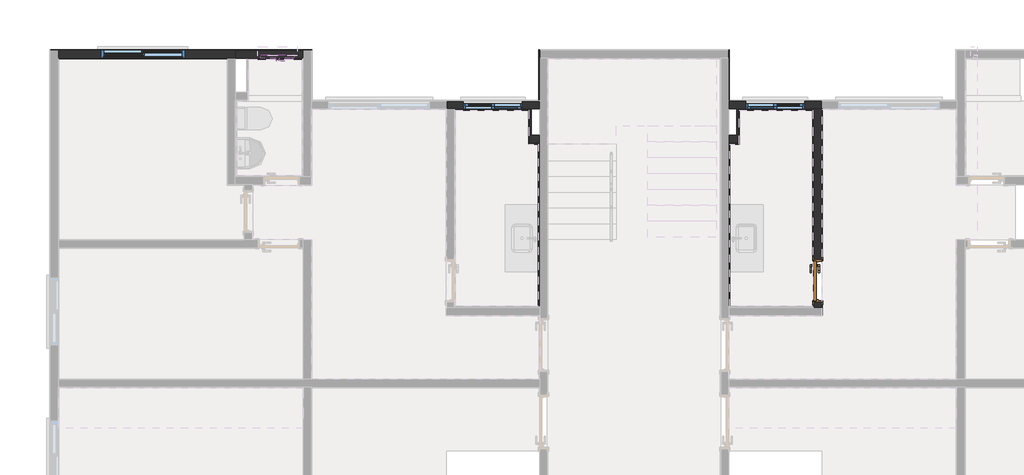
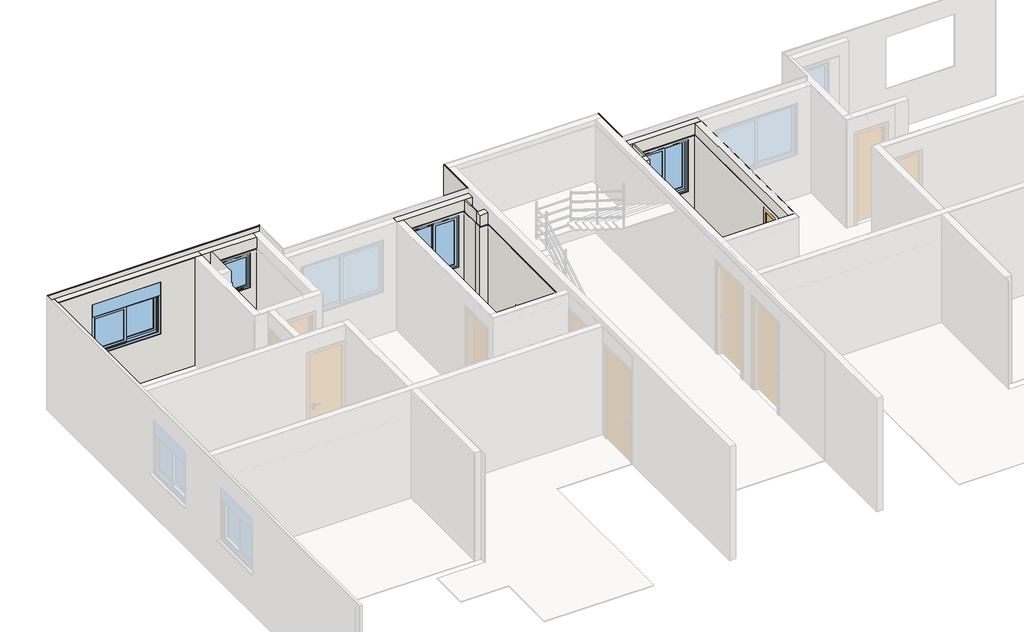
# One storey, part 6 of 11: 26 walls, 4 windows, 1 door.
"""IFC4 building model written with IfcOpenShell, lengths in millimetres."""

from ifc_helpers import new_model, si_unit, frame, origin, origin_with_axes, place, context, project, spatial, polyline, outline, extrude, faceted_brep, transform, mapped, element, save
from components import porta_de_madeira_interna_70_x_210_porta_de_madeira_interna_f307109d, window_105x120_428ac20c, window_105x120_f2d7c1f1, window_150x120_d34a449e, window_60x80_6d4336cf

model = new_model("IFC4")

# Units and contexts
model_context = context("Model", 3, world=origin())
ifc_project = project(units=[si_unit("LENGTHUNIT", "METRE", prefix="MILLI")], contexts=[model_context])

# Site, building, storey
site = spatial("IfcSite", under=ifc_project)
building = spatial("IfcBuilding", under=site)
storey = spatial("IfcBuildingStorey", under=building, Name="Térreo", Elevation=0.0)

# Door
placement = place(None, origin())
porta_de_madeira_interna_70_x_210_porta_de_madeira_interna_shape = porta_de_madeira_interna_70_x_210_porta_de_madeira_interna_f307109d(model_context)
element("IfcDoor", 1, ObjectType="Porta de Madeira Interna 70 x 210 : Porta de Madeira Interna 70 x 210", at=placement, inside=storey, context=model_context, shape_type="MappedRepresentation", body=[
    mapped(porta_de_madeira_interna_70_x_210_porta_de_madeira_interna_shape, transform((13673.8210213, 8221.3603139, 0.0), x_axis=(0.0, -1.0, 0.0), y_axis=(1.0, 0.0, 0.0), z_axis=(0.0, 0.0, 1.0))),
])

# Walls
element("IfcWall", 2, ObjectType="Alvenaria Estrutural", at=placement, inside=storey, context=model_context, shape_type="Brep", body=[
    faceted_brep([(175.9991825, 12180.0252435, 0.0), (169.9991825, 12180.0252435, 0.0), (169.9991825, 12320.0252435, 0.0), (3319.9977061, 12320.0252435, 0.0), (3319.9977061, 12180.0252435, 0.0), (3179.9977061, 12180.0252435, 0.0), (3179.9977061, 12180.0252435, 2510.0), (3319.9977061, 12180.0252435, 2510.0), (3319.9977061, 12320.0252435, 2510.0), (169.9991825, 12320.0252435, 2510.0), (169.9991825, 12180.0252435, 2510.0), (175.9991825, 12180.0252435, 2510.0), (2424.9984443, 12180.0252435, 1000.0), (2424.9984443, 12180.0252435, 2200.0), (2424.9984443, 12320.0252435, 2200.0), (2424.9984443, 12320.0252435, 1000.0), (2424.9984443, 12222.5252435, 1000.0), (924.9984443, 12180.0252435, 2200.0), (924.9984443, 12320.0252435, 2200.0), (924.9984443, 12180.0252435, 1000.0), (924.9984443, 12222.5252435, 1000.0), (924.9984443, 12320.0252435, 1000.0), (874.9984443, 12320.0252435, 951.3083694), (874.9984443, 12320.0252435, 1000.0), (874.9984443, 12222.5252435, 1000.0), (874.9984443, 12222.5252435, 972.0326341), (2474.9984443, 12320.0252435, 1000.0), (2474.9984443, 12320.0252435, 951.3083694), (2474.9984443, 12222.5252435, 972.0326341), (2474.9984443, 12222.5252435, 1000.0)], [[[0, 1, 2, 3, 4, 5]], [[6, 7, 8, 9, 10, 11]], [[12, 13, 14, 15, 16]], [[13, 17, 18, 14]], [[17, 19, 20, 21, 18]], [[19, 12, 16, 20]], [[22, 23, 24, 25]], [[26, 27, 28, 29]], [[20, 16, 29, 28, 25, 24]], [[23, 21, 20, 24]], [[27, 22, 25, 28]], [[15, 26, 29, 16]], [[3, 2, 9, 8], [15, 14, 18, 21, 23, 22, 27, 26]], [[1, 0, 5, 4, 7, 6, 11, 10], [13, 12, 19, 17]], [[7, 4, 3, 8]], [[1, 10, 9, 2]]]),
    faceted_brep([(169.9991825, 12180.0252435, 0.0), (175.9991825, 12180.0252435, 0.0), (3179.9977061, 12180.0252435, 0.0), (3319.9977061, 12180.0252435, 0.0), (3319.9977061, 12180.0252435, 2510.0), (3179.9977061, 12180.0252435, 2510.0), (175.9991825, 12180.0252435, 2510.0), (169.9991825, 12180.0252435, 2510.0), (2424.9984443, 12180.0252435, 2200.0), (2424.9984443, 12180.0252435, 1000.0), (924.9984443, 12180.0252435, 1000.0), (924.9984443, 12180.0252435, 2200.0), (3319.9977061, 12320.0252435, 0.0), (169.9991825, 12320.0252435, 0.0), (169.9991825, 12320.0252435, 2510.0), (3319.9977061, 12320.0252435, 2510.0), (2424.9984443, 12320.0252435, 1000.0), (2424.9984443, 12320.0252435, 2200.0), (924.9984443, 12320.0252435, 2200.0), (924.9984443, 12320.0252435, 1000.0), (874.9984443, 12320.0252435, 1000.0), (874.9984443, 12320.0252435, 951.3083694), (2474.9984443, 12320.0252435, 951.3083694), (2474.9984443, 12320.0252435, 1000.0), (2424.9984443, 12222.5252435, 1000.0), (924.9984443, 12222.5252435, 1000.0), (874.9984443, 12222.5252435, 1000.0), (874.9984443, 12222.5252435, 972.0326341), (2474.9984443, 12222.5252435, 972.0326341), (2474.9984443, 12222.5252435, 1000.0)], [[[0, 1, 2, 3, 4, 5, 6, 7], [8, 9, 10, 11]], [[12, 13, 14, 15], [16, 17, 18, 19, 20, 21, 22, 23]], [[1, 0, 13, 12, 3, 2]], [[5, 4, 15, 14, 7, 6]], [[9, 8, 17, 16, 24]], [[8, 11, 18, 17]], [[11, 10, 25, 19, 18]], [[10, 9, 24, 25]], [[21, 20, 26, 27]], [[23, 22, 28, 29]], [[25, 24, 29, 28, 27, 26]], [[20, 19, 25, 26]], [[22, 21, 27, 28]], [[4, 3, 12, 15]], [[0, 7, 14, 13]], [[16, 23, 29, 24]]]),
])
element("IfcWall", 3, ObjectType="Alvenaria Estrutural", at=placement, inside=storey, context=model_context, shape_type="Brep", body=[
    faceted_brep([(3516.99398, 12180.025593, 0.0), (3319.9977061, 12180.025593, 0.0), (3319.9977061, 12320.025593, 0.0), (4529.9986472, 12320.025593, 0.0), (4529.9986472, 12180.025593, 0.0), (4509.9990083, 12180.025593, 0.0), (3539.99398, 12180.025593, 0.0), (3539.99398, 12180.025593, 2510.0), (4529.9986472, 12180.025593, 2510.0), (4529.9986472, 12320.025593, 2510.0), (3319.9977061, 12320.025593, 2510.0), (3319.9977061, 12180.025593, 2510.0), (3516.99398, 12180.025593, 2510.0), (3719.9986472, 12320.025593, 1351.3083694), (3719.9986472, 12320.025593, 1400.0), (3719.9986472, 12222.525593, 1400.0), (3719.9986472, 12222.525593, 1372.0326341), (4419.9986472, 12320.025593, 1400.0), (4419.9986472, 12320.025593, 1351.3083694), (4419.9986472, 12222.525593, 1372.0326341), (4419.9986472, 12222.525593, 1400.0), (3769.9986472, 12222.525593, 1400.0), (4369.9986472, 12222.525593, 1400.0), (3769.9986472, 12320.025593, 1400.0), (4369.9986472, 12180.025593, 1400.0), (4369.9986472, 12180.025593, 2200.0), (4369.9986472, 12320.025593, 2200.0), (4369.9986472, 12320.025593, 1400.0), (3769.9986472, 12180.025593, 2200.0), (3769.9986472, 12320.025593, 2200.0), (3769.9986472, 12180.025593, 1400.0), (4529.9986472, 12180.025593, 2250.0)], [[[0, 1, 2, 3, 4, 5, 6]], [[7, 8, 9, 10, 11, 12]], [[13, 14, 15, 16]], [[17, 18, 19, 20]], [[16, 15, 21, 22, 20, 19]], [[14, 23, 21, 15]], [[18, 13, 16, 19]], [[24, 25, 26, 27, 22]], [[25, 28, 29, 26]], [[28, 30, 21, 23, 29]], [[30, 24, 22, 21]], [[27, 17, 20, 22]], [[1, 0, 6, 5, 4, 31, 8, 7, 12, 11], [25, 24, 30, 28]], [[3, 2, 10, 9], [13, 18, 17, 27, 26, 29, 23, 14]], [[1, 11, 10, 2]], [[31, 4, 3, 9, 8]]]),
    faceted_brep([(3319.9977061, 12180.025593, 0.0), (3516.99398, 12180.025593, 0.0), (3539.99398, 12180.025593, 0.0), (4509.9990083, 12180.025593, 0.0), (4529.9986472, 12180.025593, 0.0), (4529.9986472, 12180.025593, 2250.0), (4529.9986472, 12180.025593, 2510.0), (3539.99398, 12180.025593, 2510.0), (3516.99398, 12180.025593, 2510.0), (3319.9977061, 12180.025593, 2510.0), (4369.9986472, 12180.025593, 2200.0), (4369.9986472, 12180.025593, 1400.0), (3769.9986472, 12180.025593, 1400.0), (3769.9986472, 12180.025593, 2200.0), (4529.9986472, 12320.025593, 0.0), (3319.9977061, 12320.025593, 0.0), (3319.9977061, 12320.025593, 2510.0), (4529.9986472, 12320.025593, 2510.0), (3719.9986472, 12320.025593, 1351.3083694), (4419.9986472, 12320.025593, 1351.3083694), (4419.9986472, 12320.025593, 1400.0), (4369.9986472, 12320.025593, 1400.0), (4369.9986472, 12320.025593, 2200.0), (3769.9986472, 12320.025593, 2200.0), (3769.9986472, 12320.025593, 1400.0), (3719.9986472, 12320.025593, 1400.0), (3719.9986472, 12222.525593, 1400.0), (3719.9986472, 12222.525593, 1372.0326341), (4419.9986472, 12222.525593, 1372.0326341), (4419.9986472, 12222.525593, 1400.0), (3769.9986472, 12222.525593, 1400.0), (4369.9986472, 12222.525593, 1400.0)], [[[0, 1, 2, 3, 4, 5, 6, 7, 8, 9], [10, 11, 12, 13]], [[14, 15, 16, 17], [18, 19, 20, 21, 22, 23, 24, 25]], [[1, 0, 15, 14, 4, 3, 2]], [[7, 6, 17, 16, 9, 8]], [[18, 25, 26, 27]], [[20, 19, 28, 29]], [[27, 26, 30, 31, 29, 28]], [[25, 24, 30, 26]], [[19, 18, 27, 28]], [[11, 10, 22, 21, 31]], [[10, 13, 23, 22]], [[13, 12, 30, 24, 23]], [[12, 11, 31, 30]], [[0, 9, 16, 15]], [[5, 4, 14, 17, 6]], [[21, 20, 29, 31]]]),
])
element("IfcWall", 4, ObjectType="Alvenaria Estrutural", at=placement, inside=storey, context=model_context, shape_type="Brep", body=[
    faceted_brep([(7212.9986861, 11280.0223004, 0.0), (7079.9990083, 11280.0223004, 0.0), (7079.9990083, 11420.0223004, 0.0), (8729.9963008, 11420.0223004, 0.0), (8729.9963008, 11280.0223004, 0.0), (8556.99867, 11280.0223004, 0.0), (7233.0017324, 11280.0223004, 0.0), (8729.9963008, 11280.0223004, 2510.0), (8729.9963008, 11420.0223004, 2510.0), (7212.9986861, 11280.0223004, 2510.0), (7079.9990083, 11420.0223004, 2510.0), (7079.9990083, 11280.0223004, 2510.0), (8424.99921, 11280.0223004, 1000.0), (8424.99921, 11280.0223004, 2200.0), (8424.99921, 11420.0223004, 2200.0), (8424.99921, 11420.0223004, 1000.0), (8424.99921, 11322.5223004, 1000.0), (7374.99921, 11280.0223004, 2200.0), (7374.99921, 11420.0223004, 2200.0), (7374.99921, 11280.0223004, 1000.0), (7374.99921, 11322.5223004, 1000.0), (7374.99921, 11420.0223004, 1000.0), (7324.99921, 11420.0223004, 951.3083694), (7324.99921, 11420.0223004, 1000.0), (7324.99921, 11322.5223004, 1000.0), (7324.99921, 11322.5223004, 972.0326341), (8474.99921, 11420.0223004, 1000.0), (8474.99921, 11420.0223004, 951.3083694), (8474.99921, 11322.5223004, 972.0326341), (8474.99921, 11322.5223004, 1000.0)], [[[0, 1, 2, 3, 4, 5, 6]], [[7, 4, 3, 8]], [[9, 7, 8, 10, 11]], [[1, 11, 10, 2]], [[12, 13, 14, 15, 16]], [[13, 17, 18, 14]], [[17, 19, 20, 21, 18]], [[19, 12, 16, 20]], [[22, 23, 24, 25]], [[26, 27, 28, 29]], [[20, 16, 29, 28, 25, 24]], [[23, 21, 20, 24]], [[27, 22, 25, 28]], [[15, 26, 29, 16]], [[1, 0, 6, 5, 4, 7, 9, 11], [13, 12, 19, 17]], [[3, 2, 10, 8], [15, 14, 18, 21, 23, 22, 27, 26]]]),
    faceted_brep([(7079.9990083, 11280.0223004, 0.0), (7212.9986861, 11280.0223004, 0.0), (7233.0017324, 11280.0223004, 0.0), (8556.99867, 11280.0223004, 0.0), (8729.9963008, 11280.0223004, 0.0), (8729.9963008, 11280.0223004, 2510.0), (7212.9986861, 11280.0223004, 2510.0), (7079.9990083, 11280.0223004, 2510.0), (8424.99921, 11280.0223004, 2200.0), (8424.99921, 11280.0223004, 1000.0), (7374.99921, 11280.0223004, 1000.0), (7374.99921, 11280.0223004, 2200.0), (8729.9963008, 11420.0223004, 0.0), (7079.9990083, 11420.0223004, 0.0), (7079.9990083, 11420.0223004, 2510.0), (8729.9963008, 11420.0223004, 2510.0), (8424.99921, 11420.0223004, 1000.0), (8424.99921, 11420.0223004, 2200.0), (7374.99921, 11420.0223004, 2200.0), (7374.99921, 11420.0223004, 1000.0), (7324.99921, 11420.0223004, 1000.0), (7324.99921, 11420.0223004, 951.3083694), (8474.99921, 11420.0223004, 951.3083694), (8474.99921, 11420.0223004, 1000.0), (8424.99921, 11322.5223004, 1000.0), (7374.99921, 11322.5223004, 1000.0), (7324.99921, 11322.5223004, 1000.0), (7324.99921, 11322.5223004, 972.0326341), (8474.99921, 11322.5223004, 972.0326341), (8474.99921, 11322.5223004, 1000.0)], [[[0, 1, 2, 3, 4, 5, 6, 7], [8, 9, 10, 11]], [[12, 13, 14, 15], [16, 17, 18, 19, 20, 21, 22, 23]], [[1, 0, 13, 12, 4, 3, 2]], [[5, 4, 12, 15]], [[6, 5, 15, 14, 7]], [[0, 7, 14, 13]], [[9, 8, 17, 16, 24]], [[8, 11, 18, 17]], [[11, 10, 25, 19, 18]], [[10, 9, 24, 25]], [[21, 20, 26, 27]], [[23, 22, 28, 29]], [[25, 24, 29, 28, 27, 26]], [[20, 19, 25, 26]], [[22, 21, 27, 28]], [[16, 23, 29, 24]]]),
])
element("IfcWall", 5, ObjectType="Alvenaria Estrutural", at=placement, inside=storey, context=model_context, shape_type="Brep", body=[
    faceted_brep([(8729.9963008, 10815.0073729, 0.0), (8579.99867, 10815.0073729, 0.0), (8556.99867, 10815.0073729, 0.0), (8556.99867, 10815.0073729, 2510.0), (8579.99867, 10815.0073729, 2510.0), (8729.9963008, 10815.0073729, 2510.0), (8729.9963008, 10675.0073729, 0.0), (8709.9963008, 10675.0073729, 0.0), (8556.99867, 10675.0073729, 0.0), (8556.99867, 10675.0073729, 2510.0), (8729.9963008, 10675.0073729, 2510.0), (8729.9963008, 10675.0073729, 2250.0)], [[[0, 1, 2, 3, 4, 5]], [[1, 0, 6, 7, 8, 2]], [[4, 3, 9, 10, 5]], [[6, 11, 10, 9, 8, 7]], [[3, 2, 8, 9]], [[0, 5, 10, 11, 6]]]),
    faceted_brep([(8729.9963008, 10815.0073729, 0.0), (8579.99867, 10815.0073729, 0.0), (8556.99867, 10815.0073729, 0.0), (8556.99867, 10815.0073729, 2510.0), (8579.99867, 10815.0073729, 2510.0), (8729.9963008, 10815.0073729, 2510.0), (8729.9963008, 10675.0073729, 0.0), (8729.9963008, 10675.0073729, 2250.0), (8729.9963008, 10675.0073729, 2510.0), (8556.99867, 10675.0073729, 2510.0), (8556.99867, 10675.0073729, 0.0), (8709.9963008, 10675.0073729, 0.0)], [[[0, 1, 2, 3, 4, 5]], [[6, 7, 8, 9, 10, 11]], [[1, 0, 6, 11, 10, 2]], [[4, 3, 9, 8, 5]], [[3, 2, 10, 9]], [[0, 5, 8, 7, 6]]]),
])
element("IfcWall", 6, ObjectType="Alvenaria Estrutural", at=placement, inside=storey, context=model_context, shape_type="Brep", body=[
    faceted_brep([(12089.9984066, 11420.0223004, 0.0), (13739.9956991, 11420.0223004, 0.0), (13739.9956991, 11280.0223004, 0.0), (13606.9960213, 11280.0223004, 0.0), (13586.992975, 11280.0223004, 0.0), (12262.9960374, 11280.0223004, 0.0), (12089.9984066, 11280.0223004, 0.0), (12089.9984066, 11420.0223004, 2510.0), (12089.9984066, 11280.0223004, 2510.0), (13739.9956991, 11420.0223004, 2510.0), (13606.9960213, 11280.0223004, 2510.0), (13739.9956991, 11280.0223004, 2510.0), (12394.9954974, 11420.0223004, 1000.0), (12394.9954974, 11420.0223004, 2200.0), (12394.9954974, 11280.0223004, 2200.0), (12394.9954974, 11280.0223004, 1000.0), (12394.9954974, 11322.5223004, 1000.0), (13444.9954974, 11420.0223004, 2200.0), (13444.9954974, 11280.0223004, 2200.0), (13444.9954974, 11420.0223004, 1000.0), (13444.9954974, 11322.5223004, 1000.0), (13444.9954974, 11280.0223004, 1000.0), (13494.9954974, 11420.0223004, 1000.0), (13494.9954974, 11420.0223004, 951.3083694), (13494.9954974, 11322.5223004, 972.0326341), (13494.9954974, 11322.5223004, 1000.0), (12344.9954974, 11420.0223004, 951.3083694), (12344.9954974, 11420.0223004, 1000.0), (12344.9954974, 11322.5223004, 1000.0), (12344.9954974, 11322.5223004, 972.0326341)], [[[0, 1, 2, 3, 4, 5, 6]], [[7, 0, 6, 8]], [[9, 7, 8, 10, 11]], [[1, 9, 11, 2]], [[12, 13, 14, 15, 16]], [[13, 17, 18, 14]], [[17, 19, 20, 21, 18]], [[15, 21, 20, 16]], [[22, 23, 24, 25]], [[26, 27, 28, 29]], [[16, 20, 25, 24, 29, 28]], [[19, 22, 25, 20]], [[23, 26, 29, 24]], [[27, 12, 16, 28]], [[1, 0, 7, 9], [13, 12, 27, 26, 23, 22, 19, 17]], [[6, 5, 4, 3, 2, 11, 10, 8], [15, 14, 18, 21]]]),
    faceted_brep([(13739.9956991, 11420.0223004, 0.0), (12089.9984066, 11420.0223004, 0.0), (12089.9984066, 11420.0223004, 2510.0), (13739.9956991, 11420.0223004, 2510.0), (12394.9954974, 11420.0223004, 2200.0), (12394.9954974, 11420.0223004, 1000.0), (12344.9954974, 11420.0223004, 1000.0), (12344.9954974, 11420.0223004, 951.3083694), (13494.9954974, 11420.0223004, 951.3083694), (13494.9954974, 11420.0223004, 1000.0), (13444.9954974, 11420.0223004, 1000.0), (13444.9954974, 11420.0223004, 2200.0), (12089.9984066, 11280.0223004, 0.0), (12262.9960374, 11280.0223004, 0.0), (13586.992975, 11280.0223004, 0.0), (13606.9960213, 11280.0223004, 0.0), (13739.9956991, 11280.0223004, 0.0), (13739.9956991, 11280.0223004, 2510.0), (13606.9960213, 11280.0223004, 2510.0), (12089.9984066, 11280.0223004, 2510.0), (12394.9954974, 11280.0223004, 1000.0), (12394.9954974, 11280.0223004, 2200.0), (13444.9954974, 11280.0223004, 2200.0), (13444.9954974, 11280.0223004, 1000.0), (12394.9954974, 11322.5223004, 1000.0), (13444.9954974, 11322.5223004, 1000.0), (13494.9954974, 11322.5223004, 972.0326341), (13494.9954974, 11322.5223004, 1000.0), (12344.9954974, 11322.5223004, 1000.0), (12344.9954974, 11322.5223004, 972.0326341)], [[[0, 1, 2, 3], [4, 5, 6, 7, 8, 9, 10, 11]], [[12, 13, 14, 15, 16, 17, 18, 19], [20, 21, 22, 23]], [[1, 0, 16, 15, 14, 13, 12]], [[2, 1, 12, 19]], [[3, 2, 19, 18, 17]], [[0, 3, 17, 16]], [[5, 4, 21, 20, 24]], [[4, 11, 22, 21]], [[11, 10, 25, 23, 22]], [[20, 23, 25, 24]], [[9, 8, 26, 27]], [[7, 6, 28, 29]], [[24, 25, 27, 26, 29, 28]], [[10, 9, 27, 25]], [[8, 7, 29, 26]], [[6, 5, 24, 28]]]),
])
element("IfcWall", 7, ObjectType="Alvenaria Estrutural", at=placement, inside=storey, context=model_context, shape_type="Brep", body=[
    faceted_brep([(12089.9984066, 10675.0073729, 0.0), (12109.9984066, 10675.0073729, 0.0), (12262.9960374, 10675.0073729, 0.0), (12262.9960374, 10675.0073729, 2510.0), (12089.9984066, 10675.0073729, 2510.0), (12089.9984066, 10675.0073729, 2250.0), (12089.9984066, 10815.0073729, 0.0), (12239.9960374, 10815.0073729, 0.0), (12262.9960374, 10815.0073729, 0.0), (12262.9960374, 10815.0073729, 2510.0), (12239.9960374, 10815.0073729, 2510.0), (12089.9984066, 10815.0073729, 2510.0)], [[[0, 1, 2, 3, 4, 5]], [[1, 0, 6, 7, 8, 2]], [[4, 3, 9, 10, 11]], [[6, 11, 10, 9, 8, 7]], [[3, 2, 8, 9]], [[5, 4, 11, 6, 0]]]),
    faceted_brep([(12089.9984066, 10675.0073729, 0.0), (12109.9984066, 10675.0073729, 0.0), (12262.9960374, 10675.0073729, 0.0), (12262.9960374, 10675.0073729, 2510.0), (12089.9984066, 10675.0073729, 2510.0), (12089.9984066, 10675.0073729, 2250.0), (12089.9984066, 10815.0073729, 0.0), (12089.9984066, 10815.0073729, 2510.0), (12239.9960374, 10815.0073729, 2510.0), (12262.9960374, 10815.0073729, 2510.0), (12262.9960374, 10815.0073729, 0.0), (12239.9960374, 10815.0073729, 0.0)], [[[0, 1, 2, 3, 4, 5]], [[6, 7, 8, 9, 10, 11]], [[1, 0, 6, 11, 10, 2]], [[4, 3, 9, 8, 7]], [[3, 2, 10, 9]], [[5, 4, 7, 6, 0]]]),
])
element("IfcWall", 8, ObjectType="Alvenaria Estrutural", at=placement, inside=storey, context=model_context, shape_type="Brep", body=[
    faceted_brep([(13606.9960213, 7746.3603139, 2510.0), (13606.9960213, 11280.0223004, 2510.0), (13606.9960213, 11280.0223004, 2250.0), (13606.9960213, 11280.0223004, 0.0), (13606.9960213, 11260.0223004, 0.0), (13606.9960213, 8596.3603139, 0.0), (13606.9960213, 8596.3603139, 2125.0), (13606.9960213, 7846.3603139, 2125.0), (13606.9960213, 7846.3603139, 0.0), (13606.9960213, 7766.3603139, 0.0), (13606.9960213, 7746.3603139, 0.0), (13606.9960213, 7746.3603139, 2250.0), (13746.9960213, 11280.0223004, 2510.0), (13746.9960213, 11274.0223004, 2510.0), (13746.9960213, 7746.3603139, 2510.0), (13746.9960213, 7746.3603139, 0.0), (13746.9960213, 7846.3603139, 0.0), (13746.9960213, 7846.3603139, 2125.0), (13746.9960213, 8596.3603139, 2125.0), (13746.9960213, 8596.3603139, 0.0), (13746.9960213, 11274.0223004, 0.0), (13746.9960213, 11280.0223004, 0.0), (13739.9956991, 11280.0223004, 0.0), (13739.9956991, 11280.0223004, 2510.0)], [[[0, 1, 2, 3, 4, 5, 6, 7, 8, 9, 10, 11]], [[12, 13, 14, 15, 16, 17, 18, 19, 20, 21]], [[4, 3, 22, 21, 20, 19, 5]], [[1, 0, 14, 13, 12, 23]], [[8, 7, 17, 16]], [[7, 6, 18, 17]], [[6, 5, 19, 18]], [[11, 10, 15, 14, 0]], [[2, 1, 23, 12, 21, 22, 3]], [[9, 8, 16, 15, 10]]]),
])
element("IfcWall", 9, ObjectType="Azulejo", at=placement, inside=storey, context=model_context, shape_type="SweptSolid", body=[
    extrude(outline(polyline([(8709.9963008, 7746.3603139), (8709.9963008, 10675.0073729), (8719.9963008, 10675.0073729), (8719.9963008, 7746.3603139), (8709.9963008, 7746.3603139)])), origin_with_axes(), (0.0, 0.0, 1.0), 2250.0),
    extrude(outline(polyline([(8729.9963008, 10675.0073729), (8729.9963008, 7746.3603139), (8719.9963008, 7746.3603139), (8719.9963008, 10675.0073729), (8729.9963008, 10675.0073729)])), origin_with_axes(), (0.0, 0.0, 1.0), 2250.0),
])
element("IfcWall", 10, ObjectType="Azulejo", at=placement, inside=storey, context=model_context, shape_type="SolidModel", body=[
    extrude(outline(polyline([(8729.9963008, 10655.0073729), (8536.99631, 10655.0073729), (8536.99631, 10665.0073729), (8729.9963008, 10665.0073729), (8729.9963008, 10655.0073729)])), origin_with_axes(), (0.0, 0.0, 1.0), 2250.0),
    faceted_brep([(8546.99631, 10665.0073729, 0.0), (8729.9963008, 10665.0073729, 0.0), (8729.9963008, 10665.0073729, 2250.0), (8546.99631, 10665.0073729, 2250.0), (8546.99631, 10675.0073729, 0.0), (8546.99631, 10675.0073729, 2250.0), (8556.99631, 10675.0073729, 2250.0), (8729.9963008, 10675.0073729, 2250.0), (8729.9963008, 10675.0073729, 0.0), (8556.99631, 10675.0073729, 0.0)], [[[0, 1, 2, 3]], [[4, 5, 6, 7, 8, 9]], [[9, 8, 1, 0, 4]], [[6, 5, 3, 2, 7]], [[8, 7, 2, 1]], [[5, 4, 0, 3]]]),
])
element("IfcWall", 11, ObjectType="Azulejo", at=placement, inside=storey, context=model_context, shape_type="SolidModel", body=[
    faceted_brep([(8536.99631, 11260.0223004, 0.0), (7212.9986861, 11260.0223004, 0.0), (7212.9986861, 11270.0223004, 0.0), (8556.99867, 11270.0223004, 0.0), (8556.99867, 11260.0223004, 0.0), (8546.99631, 11260.0223004, 0.0), (8546.99631, 11260.0223004, 2250.0), (8556.99867, 11260.0223004, 2250.0), (8556.99867, 11270.0223004, 2250.0), (7212.9986861, 11270.0223004, 2250.0), (7212.9986861, 11260.0223004, 2250.0), (8536.99631, 11260.0223004, 2250.0), (8424.99921, 11260.0223004, 1000.0), (8424.99921, 11260.0223004, 2200.0), (8424.99921, 11270.0223004, 2200.0), (8424.99921, 11270.0223004, 1000.0), (7374.99921, 11260.0223004, 2200.0), (7374.99921, 11270.0223004, 2200.0), (7374.99921, 11260.0223004, 1000.0), (7374.99921, 11270.0223004, 1000.0)], [[[0, 1, 2, 3, 4, 5]], [[6, 7, 8, 9, 10, 11]], [[12, 13, 14, 15]], [[13, 16, 17, 14]], [[16, 18, 19, 17]], [[18, 12, 15, 19]], [[1, 10, 9, 2]], [[7, 4, 3, 8]], [[3, 2, 9, 8], [15, 14, 17, 19]], [[1, 0, 5, 4, 7, 6, 11, 10], [12, 18, 16, 13]]]),
    extrude(outline(polyline([(0.0, 7212.9986861), (0.0, 8556.99867), (2250.0, 8556.99867), (2250.0, 7212.9986861), (0.0, 7212.9986861)]), holes=[polyline([(2200.0, 8424.99921), (1000.0, 8424.99921), (1000.0, 7374.99921), (2200.0, 7374.99921), (2200.0, 8424.99921)])]), frame((0.0, 11270.0223004, 0.0), z_axis=(0.0, 1.0, 0.0), x_axis=(0.0, 0.0, 1.0)), (0.0, 0.0, 1.0), 10.0),
])
element("IfcWall", 12, ObjectType="Azulejo", at=placement, inside=storey, context=model_context, shape_type="SweptSolid", body=[
    extrude(outline(polyline([(8536.99631, 10665.0073729), (8536.99631, 10815.0073729), (8546.99631, 10815.0073729), (8546.99631, 10665.0073729), (8536.99631, 10665.0073729)])), origin_with_axes(), (0.0, 0.0, 1.0), 2250.0),
    extrude(outline(polyline([(8556.99631, 10815.0073729), (8556.99631, 10675.0073729), (8546.99631, 10675.0073729), (8546.99631, 10815.0073729), (8556.99631, 10815.0073729)])), origin_with_axes(), (0.0, 0.0, 1.0), 2250.0),
])
element("IfcWall", 13, ObjectType="Azulejo", at=placement, inside=storey, context=model_context, shape_type="SolidModel", body=[
    faceted_brep([(3549.99398, 12160.025593, 0.0), (3539.99398, 12160.025593, 0.0), (3539.99398, 12170.025593, 0.0), (4509.9990083, 12170.025593, 0.0), (4509.9990083, 12160.025593, 0.0), (3549.99398, 12160.025593, 2250.0), (4509.9990083, 12160.025593, 2250.0), (4509.9990083, 12170.025593, 2250.0), (3539.99398, 12170.025593, 2250.0), (3539.99398, 12160.025593, 2250.0), (4369.9986472, 12160.025593, 1400.0), (4369.9986472, 12160.025593, 2200.0), (4369.9986472, 12170.025593, 2200.0), (4369.9986472, 12170.025593, 1400.0), (3769.9986472, 12160.025593, 2200.0), (3769.9986472, 12170.025593, 2200.0), (3769.9986472, 12160.025593, 1400.0), (3769.9986472, 12170.025593, 1400.0)], [[[0, 1, 2, 3, 4]], [[5, 6, 7, 8, 9]], [[10, 11, 12, 13]], [[11, 14, 15, 12]], [[14, 16, 17, 15]], [[16, 10, 13, 17]], [[6, 4, 3, 7]], [[1, 9, 8, 2]], [[3, 2, 8, 7], [13, 12, 15, 17]], [[4, 6, 5, 9, 1, 0], [10, 16, 14, 11]]]),
    extrude(outline(polyline([(0.0, 3539.99398), (0.0, 4519.9990083), (2250.0, 4519.9990083), (2250.0, 3539.99398), (0.0, 3539.99398)]), holes=[polyline([(2200.0, 4369.9986472), (1400.0, 4369.9986472), (1400.0, 3769.9986472), (2200.0, 3769.9986472), (2200.0, 4369.9986472)])]), frame((0.0, 12170.025593, 0.0), z_axis=(0.0, 1.0, 0.0), x_axis=(0.0, 0.0, 1.0)), (0.0, 0.0, 1.0), 10.0),
])
element("IfcWall", 14, ObjectType="Azulejo", at=placement, inside=storey, context=model_context, shape_type="SweptSolid", body=[
    extrude(outline(polyline([(7746.3603139, 2250.0), (11280.0223004, 2250.0), (11280.0223004, 0.0), (8596.3603139, 0.0), (8596.3603139, 2125.0), (7846.3603139, 2125.0), (7846.3603139, 0.0), (7746.3603139, 0.0), (7746.3603139, 2250.0)])), frame((13586.992975, 0.0, 0.0), z_axis=(1.0, 0.0, 0.0), x_axis=(0.0, 1.0, 0.0)), (0.0, 0.0, 1.0), 10.0),
    extrude(outline(polyline([(11280.0223004, 0.0), (8596.3603139, 0.0), (8596.3603139, 2125.0), (7846.3603139, 2125.0), (7846.3603139, 0.0), (7746.3603139, 0.0), (7746.3603139, 2250.0), (11280.0223004, 2250.0), (11280.0223004, 0.0)])), frame((13596.992975, 0.0, 0.0), z_axis=(1.0, 0.0, 0.0), x_axis=(0.0, 1.0, 0.0)), (0.0, 0.0, 1.0), 10.0),
])
element("IfcWall", 15, ObjectType="Azulejo", at=placement, inside=storey, context=model_context, shape_type="SweptSolid", body=[
    extrude(outline(polyline([(12109.9984066, 10675.0073729), (12109.9984066, 7746.3603139), (12099.9984066, 7746.3603139), (12099.9984066, 10675.0073729), (12109.9984066, 10675.0073729)])), origin_with_axes(), (0.0, 0.0, 1.0), 2250.0),
    extrude(outline(polyline([(12089.9984066, 7746.3603139), (12089.9984066, 10675.0073729), (12099.9984066, 10675.0073729), (12099.9984066, 7746.3603139), (12089.9984066, 7746.3603139)])), origin_with_axes(), (0.0, 0.0, 1.0), 2250.0),
])
element("IfcWall", 16, ObjectType="Azulejo", at=placement, inside=storey, context=model_context, shape_type="SolidModel", body=[
    extrude(outline(polyline([(12282.9983974, 10655.0073729), (12089.9984066, 10655.0073729), (12089.9984066, 10665.0073729), (12282.9983974, 10665.0073729), (12282.9983974, 10655.0073729)])), origin_with_axes(), (0.0, 0.0, 1.0), 2250.0),
    faceted_brep([(12089.9984066, 10665.0073729, 0.0), (12272.9983974, 10665.0073729, 0.0), (12272.9983974, 10665.0073729, 2250.0), (12089.9984066, 10665.0073729, 2250.0), (12272.9983974, 10675.0073729, 0.0), (12262.9983974, 10675.0073729, 0.0), (12089.9984066, 10675.0073729, 0.0), (12089.9984066, 10675.0073729, 2250.0), (12262.9983974, 10675.0073729, 2250.0), (12272.9983974, 10675.0073729, 2250.0)], [[[0, 1, 2, 3]], [[4, 5, 6, 7, 8, 9]], [[5, 4, 1, 0, 6]], [[8, 7, 3, 2, 9]], [[7, 6, 0, 3]], [[4, 9, 2, 1]]]),
])
element("IfcWall", 17, ObjectType="Azulejo", at=placement, inside=storey, context=model_context, shape_type="SolidModel", body=[
    faceted_brep([(12272.9983974, 11260.0223004, 0.0), (12262.9960374, 11260.0223004, 0.0), (12262.9960374, 11270.0223004, 0.0), (13606.9960213, 11270.0223004, 0.0), (13606.9960213, 11260.0223004, 0.0), (12282.9983974, 11260.0223004, 0.0), (12282.9983974, 11260.0223004, 2250.0), (13606.9960213, 11260.0223004, 2250.0), (13606.9960213, 11270.0223004, 2250.0), (12262.9960374, 11270.0223004, 2250.0), (12262.9960374, 11260.0223004, 2250.0), (12272.9983974, 11260.0223004, 2250.0), (12394.9954974, 11260.0223004, 2200.0), (12394.9954974, 11260.0223004, 1000.0), (12394.9954974, 11270.0223004, 1000.0), (12394.9954974, 11270.0223004, 2200.0), (13444.9954974, 11260.0223004, 2200.0), (13444.9954974, 11270.0223004, 2200.0), (13444.9954974, 11260.0223004, 1000.0), (13444.9954974, 11270.0223004, 1000.0)], [[[0, 1, 2, 3, 4, 5]], [[6, 7, 8, 9, 10, 11]], [[12, 13, 14, 15]], [[16, 12, 15, 17]], [[18, 16, 17, 19]], [[13, 18, 19, 14]], [[7, 4, 3, 8]], [[1, 10, 9, 2]], [[3, 2, 9, 8], [15, 14, 19, 17]], [[4, 7, 6, 11, 10, 1, 0, 5], [13, 12, 16, 18]]]),
    extrude(outline(polyline([(0.0, 12262.9960374), (0.0, 13606.9960213), (2250.0, 13606.9960213), (2250.0, 12262.9960374), (0.0, 12262.9960374)]), holes=[polyline([(1000.0, 12394.9954974), (2200.0, 12394.9954974), (2200.0, 13444.9954974), (1000.0, 13444.9954974), (1000.0, 12394.9954974)])]), frame((0.0, 11270.0223004, 0.0), z_axis=(0.0, 1.0, 0.0), x_axis=(0.0, 0.0, 1.0)), (0.0, 0.0, 1.0), 10.0),
])
element("IfcWall", 18, ObjectType="Azulejo", at=placement, inside=storey, context=model_context, shape_type="SweptSolid", body=[
    extrude(outline(polyline([(12282.9983974, 10815.0073729), (12282.9983974, 10665.0073729), (12272.9983974, 10665.0073729), (12272.9983974, 10815.0073729), (12282.9983974, 10815.0073729)])), origin_with_axes(), (0.0, 0.0, 1.0), 2250.0),
    extrude(outline(polyline([(12262.9983974, 10675.0073729), (12262.9983974, 10815.0073729), (12272.9983974, 10815.0073729), (12272.9983974, 10675.0073729), (12262.9983974, 10675.0073729)])), origin_with_axes(), (0.0, 0.0, 1.0), 2250.0),
])
element("IfcWall", 19, ObjectType="Azulejo - Shaft", at=placement, inside=storey, context=model_context, shape_type="SweptSolid", body=[
    extrude(outline(polyline([(8536.99631, 10815.0073729), (8536.99631, 11260.0223004), (8546.99631, 11260.0223004), (8546.99631, 10815.0073729), (8536.99631, 10815.0073729)])), origin_with_axes(), (0.0, 0.0, 1.0), 2250.0),
])
element("IfcWall", 20, ObjectType="Azulejo - Shaft", at=placement, inside=storey, context=model_context, shape_type="SweptSolid", body=[
    extrude(outline(polyline([(12272.9983974, 10815.0073729), (12272.9983974, 11260.0223004), (12282.9983974, 11260.0223004), (12282.9983974, 10815.0073729), (12272.9983974, 10815.0073729)])), origin_with_axes(), (0.0, 0.0, 1.0), 2250.0),
])
element("IfcWall", 21, ObjectType="Gesso Liso + Pintura", at=placement, inside=storey, context=model_context, shape_type="SolidModel", body=[
    faceted_brep([(3173.9976538, 12174.0253822, 0.0), (175.9991825, 12174.0253822, 0.0), (175.9991825, 12175.0253822, 0.0), (3174.9976538, 12175.0253822, 0.0), (3174.9976538, 12174.0253822, 0.0), (175.9991825, 12175.0253822, 2510.0), (175.9991825, 12174.0253822, 2510.0), (3173.9976538, 12174.0253822, 2510.0), (3174.9976538, 12174.0253822, 2510.0), (3174.9976538, 12175.0253822, 2510.0), (2424.9984443, 12174.0253822, 1000.0), (2424.9984443, 12174.0253822, 2200.0), (2424.9984443, 12175.0253822, 2200.0), (2424.9984443, 12175.0253822, 1000.0), (924.9984443, 12174.0253822, 2200.0), (924.9984443, 12175.0253822, 2200.0), (924.9984443, 12174.0253822, 1000.0), (924.9984443, 12175.0253822, 1000.0)], [[[0, 1, 2, 3, 4]], [[5, 6, 7, 8, 9]], [[10, 11, 12, 13]], [[12, 11, 14, 15]], [[15, 14, 16, 17]], [[10, 13, 17, 16]], [[2, 1, 6, 5]], [[2, 5, 9, 3], [13, 12, 15, 17]], [[1, 0, 4, 8, 7, 6], [11, 10, 16, 14]], [[4, 3, 9, 8]]]),
    extrude(outline(polyline([(0.0, 174.9991825), (0.0, 3179.9977061), (2510.0, 3179.9977061), (2510.0, 174.9991825), (0.0, 174.9991825)]), holes=[polyline([(2200.0, 2424.9984443), (1000.0, 2424.9984443), (1000.0, 924.9984443), (2200.0, 924.9984443), (2200.0, 2424.9984443)])]), frame((0.0, 12175.0253822, 0.0), z_axis=(0.0, 1.0, 0.0), x_axis=(0.0, 0.0, 1.0)), (0.0, 0.0, 1.0), 5.0),
])
element("IfcWall", 22, ObjectType="Gesso Liso + Pintura", at=placement, inside=storey, context=model_context, shape_type="SolidModel", body=[
    extrude(outline(polyline([(7846.3603139, 0.0), (7601.3603139, 0.0), (7601.3603139, 2510.0), (11280.0223004, 2510.0), (11280.0223004, 0.0), (8596.3603139, 0.0), (8596.3603139, 2125.0), (7846.3603139, 2125.0), (7846.3603139, 0.0)])), frame((13751.9960213, 0.0, 0.0), z_axis=(1.0, 0.0, 0.0), x_axis=(0.0, 1.0, 0.0)), (0.0, 0.0, 1.0), 1.0),
    faceted_brep([(13751.9960213, 7606.3603139, 0.0), (13751.9960213, 7846.3603139, 0.0), (13751.9960213, 7846.3603139, 2125.0), (13751.9960213, 8596.3603139, 2125.0), (13751.9960213, 8596.3603139, 0.0), (13751.9960213, 11280.0223004, 0.0), (13751.9960213, 11280.0223004, 2510.0), (13751.9960213, 7606.3603139, 2510.0), (13746.9960213, 7606.3603139, 2510.0), (13746.9960213, 7746.3603139, 2510.0), (13746.9960213, 11280.0223004, 2510.0), (13746.9960213, 11280.0223004, 0.0), (13746.9960213, 8596.3603139, 0.0), (13746.9960213, 8596.3603139, 2125.0), (13746.9960213, 7846.3603139, 2125.0), (13746.9960213, 7846.3603139, 0.0), (13746.9960213, 7746.3603139, 0.0), (13746.9960213, 7606.3603139, 0.0)], [[[0, 1, 2, 3, 4, 5, 6, 7]], [[8, 9, 10, 11, 12, 13, 14, 15, 16, 17]], [[16, 15, 1, 0, 17]], [[9, 8, 7, 6, 10]], [[15, 14, 2, 1]], [[14, 13, 3, 2]], [[13, 12, 4, 3]], [[8, 17, 0, 7]], [[11, 10, 6, 5]], [[12, 11, 5, 4]]]),
])
element("IfcWall", 23, ObjectType="Reboco + Pintura Externa", at=placement, inside=storey, context=model_context, shape_type="SolidModel", body=[
    extrude(outline(polyline([(0.0, 14.9976538), (0.0, 4685.9976538), (2630.0, 4685.9976538), (2630.0, 14.9976538), (0.0, 14.9976538)]), holes=[polyline([(2200.0, 2424.9984443), (1000.0, 2424.9984443), (1000.0, 924.9984443), (2200.0, 924.9984443), (2200.0, 2424.9984443)]), polyline([(2200.0, 4369.9986472), (1400.0, 4369.9986472), (1400.0, 3769.9986472), (2200.0, 3769.9986472), (2200.0, 4369.9986472)])]), frame((0.0, 12334.9952456, 0.0), z_axis=(0.0, 1.0, 0.0), x_axis=(0.0, 0.0, 1.0)), (0.0, 0.0, 1.0), 1.0),
    faceted_brep([(4674.9976538, 12324.9952456, 0.0), (29.9976538, 12324.9952456, 0.0), (29.9976538, 12324.9952456, 2630.0), (4674.9976538, 12324.9952456, 2630.0), (2424.9984443, 12324.9952456, 1000.0), (2424.9984443, 12324.9952456, 2200.0), (924.9984443, 12324.9952456, 2200.0), (924.9984443, 12324.9952456, 1000.0), (4369.9986472, 12324.9952456, 1400.0), (4369.9986472, 12324.9952456, 2200.0), (3769.9986472, 12324.9952456, 2200.0), (3769.9986472, 12324.9952456, 1400.0), (3319.9977061, 12319.9952456, 0.0), (29.9976538, 12319.9952456, 0.0), (4674.9976538, 12319.9952456, 0.0), (4669.9976538, 12319.9952456, 0.0), (4529.9986472, 12319.9952456, 0.0), (4669.9976538, 12319.9952456, 2630.0), (4674.9976538, 12319.9952456, 2630.0), (29.9976538, 12319.9952456, 2630.0), (4369.9986472, 12319.9952456, 1400.0), (4369.9986472, 12319.9952456, 2200.0), (3769.9986472, 12319.9952456, 2200.0), (3769.9986472, 12319.9952456, 1400.0), (2424.9984443, 12319.9952456, 1000.0), (2424.9984443, 12319.9952456, 2200.0), (924.9984443, 12319.9952456, 2200.0), (924.9984443, 12319.9952456, 1000.0)], [[[0, 1, 2, 3], [4, 5, 6, 7], [8, 9, 10, 11]], [[12, 13, 1, 0, 14, 15, 16]], [[17, 18, 3, 2, 19]], [[20, 21, 9, 8]], [[21, 22, 10, 9]], [[22, 23, 11, 10]], [[23, 20, 8, 11]], [[24, 25, 5, 4]], [[25, 26, 6, 5]], [[26, 27, 7, 6]], [[27, 24, 4, 7]], [[13, 19, 2, 1]], [[13, 12, 16, 15, 14, 18, 17, 19], [20, 23, 22, 21], [24, 27, 26, 25]], [[18, 14, 0, 3]]]),
    extrude(outline(polyline([(0.0, 24.9976538), (0.0, 4684.9976538), (2630.0, 4684.9976538), (2630.0, 24.9976538), (0.0, 24.9976538)]), holes=[polyline([(2200.0, 2424.9984443), (1000.0, 2424.9984443), (1000.0, 924.9984443), (2200.0, 924.9984443), (2200.0, 2424.9984443)]), polyline([(2200.0, 4369.9986472), (1400.0, 4369.9986472), (1400.0, 3769.9986472), (2200.0, 3769.9986472), (2200.0, 4369.9986472)])]), frame((0.0, 12324.9952456, 0.0), z_axis=(0.0, 1.0, 0.0), x_axis=(0.0, 0.0, 1.0)), (0.0, 0.0, 1.0), 10.0),
])
element("IfcWall", 24, ObjectType="Reboco + Pintura Externa", at=placement, inside=storey, context=model_context, shape_type="SolidModel", body=[
    extrude(outline(polyline([(8713.9963008, 11436.0223004), (8713.9963008, 12335.9995833), (8714.9963008, 12335.9995833), (8714.9963008, 11436.0223004), (8713.9963008, 11436.0223004)])), origin_with_axes(), (0.0, 0.0, 1.0), 2630.0),
    faceted_brep([(8724.9963008, 12324.9995833, 0.0), (8724.9963008, 11435.0223004, 0.0), (8724.9963008, 11435.0223004, 2630.0), (8724.9963008, 12324.9995833, 2630.0), (8729.9963008, 12319.9995833, 0.0), (8729.9963008, 11435.0223004, 0.0), (8729.9963008, 12324.9995833, 0.0), (8729.9963008, 12319.9995833, 2630.0), (8729.9963008, 12324.9995833, 2630.0), (8729.9963008, 11435.0223004, 2630.0)], [[[0, 1, 2, 3]], [[4, 5, 1, 0, 6]], [[7, 8, 3, 2, 9]], [[5, 4, 6, 8, 7, 9]], [[5, 9, 2, 1]], [[8, 6, 0, 3]]]),
    extrude(outline(polyline([(8724.9963008, 11435.0223004), (8714.9963008, 11435.0223004), (8714.9963008, 12334.9995833), (8724.9963008, 12334.9995833), (8724.9963008, 11435.0223004)])), origin_with_axes(), (0.0, 0.0, 1.0), 2630.0),
])
element("IfcWall", 25, ObjectType="Reboco + Pintura Externa", at=placement, inside=storey, context=model_context, shape_type="SweptSolid", body=[
    extrude(outline(polyline([(12105.9984066, 12334.9995833), (12105.9984066, 11436.0223004), (12104.9984066, 11436.0223004), (12104.9984066, 12334.9995833), (12105.9984066, 12334.9995833)])), origin_with_axes(), (0.0, 0.0, 1.0), 2630.0),
    extrude(outline(polyline([(12089.9984066, 11425.0223004), (12089.9984066, 12319.9995833), (12094.9984066, 12319.9995833), (12094.9984066, 11425.0223004), (12089.9984066, 11425.0223004)])), origin_with_axes(), (0.0, 0.0, 1.0), 2630.0),
    extrude(outline(polyline([(12094.9984066, 12324.9995833), (12104.9984066, 12324.9995833), (12104.9984066, 11435.0223004), (12094.9984066, 11435.0223004), (12094.9984066, 12324.9995833)])), origin_with_axes(), (0.0, 0.0, 1.0), 2630.0),
])
element("IfcWall", 26, ObjectType="Shaft Drywall", at=placement, inside=storey, context=model_context, shape_type="Brep", body=[
    faceted_brep([(8579.99867, 11280.0223004, 0.0), (8579.99867, 11280.0223004, 2510.0), (8579.99867, 10815.0073729, 2510.0), (8579.99867, 10815.0073729, 0.0), (8556.99867, 11260.0223004, 0.0), (8556.99867, 11280.0223004, 0.0), (8556.99867, 10815.0073729, 0.0), (8556.99867, 11280.0223004, 2510.0), (8556.99867, 10815.0073729, 2510.0), (8556.99867, 11280.0223004, 2250.0)], [[[0, 1, 2, 3]], [[4, 5, 0, 3, 6]], [[7, 8, 2, 1]], [[9, 7, 1, 0, 5]], [[5, 4, 6, 8, 7, 9]], [[8, 6, 3, 2]]]),
    faceted_brep([(8556.99867, 11280.0223004, 0.0), (8556.99867, 11260.0223004, 0.0), (8556.99867, 10815.0073729, 0.0), (8556.99867, 10815.0073729, 2510.0), (8556.99867, 11280.0223004, 2510.0), (8556.99867, 11280.0223004, 2250.0), (8579.99867, 11280.0223004, 0.0), (8579.99867, 11280.0223004, 2510.0), (8579.99867, 10815.0073729, 2510.0), (8579.99867, 10815.0073729, 0.0)], [[[0, 1, 2, 3, 4, 5]], [[6, 7, 8, 9]], [[1, 0, 6, 9, 2]], [[4, 3, 8, 7]], [[5, 4, 7, 6, 0]], [[3, 2, 9, 8]]]),
])
element("IfcWall", 27, ObjectType="Shaft Drywall", at=placement, inside=storey, context=model_context, shape_type="Brep", body=[
    faceted_brep([(12262.9960374, 11280.0223004, 0.0), (12262.9960374, 11280.0223004, 2250.0), (12262.9960374, 11280.0223004, 2510.0), (12262.9960374, 10815.0073729, 2510.0), (12262.9960374, 10815.0073729, 0.0), (12262.9960374, 11260.0223004, 0.0), (12239.9960374, 10815.0073729, 0.0), (12239.9960374, 11280.0223004, 0.0), (12239.9960374, 11280.0223004, 2510.0), (12239.9960374, 10815.0073729, 2510.0)], [[[0, 1, 2, 3, 4, 5]], [[6, 7, 0, 5, 4]], [[8, 9, 3, 2]], [[7, 8, 2, 1, 0]], [[7, 6, 9, 8]], [[9, 6, 4, 3]]]),
    faceted_brep([(12239.9960374, 11280.0223004, 0.0), (12239.9960374, 10815.0073729, 0.0), (12239.9960374, 10815.0073729, 2510.0), (12239.9960374, 11280.0223004, 2510.0), (12262.9960374, 11280.0223004, 0.0), (12262.9960374, 11280.0223004, 2250.0), (12262.9960374, 11280.0223004, 2510.0), (12262.9960374, 10815.0073729, 2510.0), (12262.9960374, 10815.0073729, 0.0), (12262.9960374, 11260.0223004, 0.0)], [[[0, 1, 2, 3]], [[4, 5, 6, 7, 8, 9]], [[1, 0, 4, 9, 8]], [[3, 2, 7, 6]], [[0, 3, 6, 5, 4]], [[2, 1, 8, 7]]]),
])

# Windows
window_105x120_shape = window_105x120_428ac20c(model_context)
element("IfcWindow", 28, ObjectType="Janela de correr - 2 Painéis : 105x120", at=placement, inside=storey, context=model_context, shape_type="MappedRepresentation", body=[
    mapped(window_105x120_shape, transform((7899.99921, 11350.0223004, 350.0), x_axis=(-1.0, 0.0, 0.0), y_axis=(0.0, -1.0, 0.0), z_axis=(0.0, 0.0, 1.0))),
])
window_105x120_2_shape = window_105x120_f2d7c1f1(model_context)
element("IfcWindow", 29, ObjectType="Janela de correr - 2 Painéis : 105x120", at=placement, inside=storey, context=model_context, shape_type="MappedRepresentation", body=[
    mapped(window_105x120_2_shape, transform((12919.9954974, 11350.0223004, 350.0), x_axis=(1.0, 0.0, 0.0), y_axis=(0.0, 1.0, 0.0), z_axis=(0.0, 0.0, 1.0))),
])
window_150x120_shape = window_150x120_d34a449e(model_context)
element("IfcWindow", 30, ObjectType="Veneziana - 2 Painéis : 150x120", at=placement, inside=storey, context=model_context, shape_type="MappedRepresentation", body=[
    mapped(window_150x120_shape, transform((1674.9984443, 12250.0252435, 350.0), x_axis=(-1.0, 0.0, 0.0), y_axis=(0.0, -1.0, 0.0), z_axis=(0.0, 0.0, 1.0))),
])
window_60x80_shape = window_60x80_6d4336cf(model_context)
element("IfcWindow", 31, ObjectType="Janela Maxim-ar : 60x80", at=placement, inside=storey, context=model_context, shape_type="MappedRepresentation", body=[
    mapped(window_60x80_shape, transform((4069.9986472, 12250.025593, 750.0), x_axis=(-1.0, 0.0, 0.0), y_axis=(0.0, -1.0, 0.0), z_axis=(0.0, 0.0, 1.0))),
])

save(model, "model.ifc")
